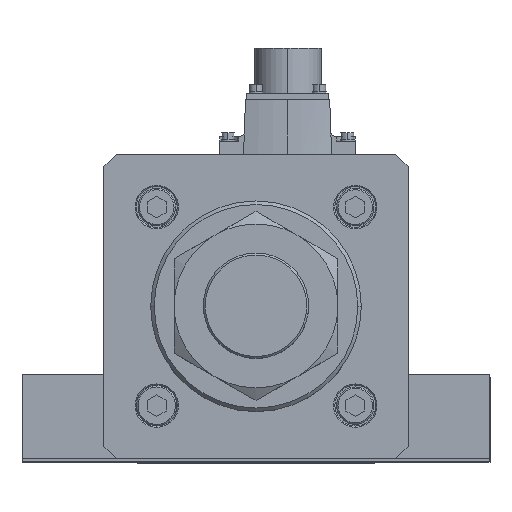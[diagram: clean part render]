
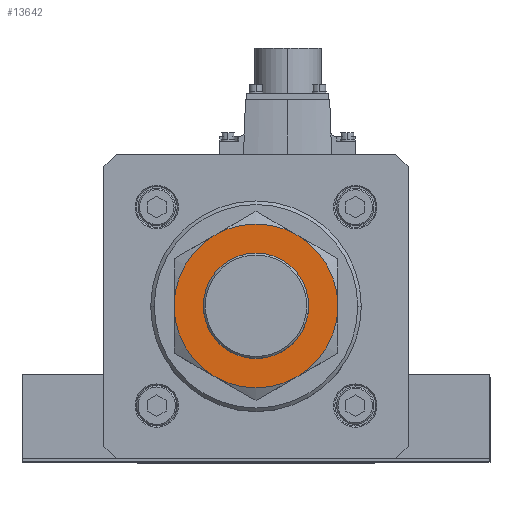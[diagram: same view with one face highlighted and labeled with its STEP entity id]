
A CAD part, top view. The second image highlights one B-rep face of the part: STEP entity #13642.
In plain terms, the highlighted planar face has unit normal (0, 0, 1).
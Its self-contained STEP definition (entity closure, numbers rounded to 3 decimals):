
#890 = DIRECTION ( 'NONE',  ( 1., 0., 0. ) ) ;
#1003 = DIRECTION ( 'NONE',  ( -1., 0., 0. ) ) ;
#1778 = CARTESIAN_POINT ( 'NONE',  ( 0., 0., 27. ) ) ;
#2931 = EDGE_CURVE ( 'NONE', #8934, #12375, #38059, .T. ) ;
#3226 = CARTESIAN_POINT ( 'NONE',  ( 35., 0., 27. ) ) ;
#3309 = DIRECTION ( 'NONE',  ( -1., 0., 0. ) ) ;
#3325 = CARTESIAN_POINT ( 'NONE',  ( 0., 0., 27. ) ) ;
#3900 = ORIENTED_EDGE ( 'NONE', *, *, #32333, .F. ) ;
#4911 = DIRECTION ( 'NONE',  ( 0., 0., -1. ) ) ;
#5414 = CARTESIAN_POINT ( 'NONE',  ( 22.5, 0., 27. ) ) ;
#5470 = EDGE_CURVE ( 'NONE', #12375, #8934, #25511, .T. ) ;
#6948 = VERTEX_POINT ( 'NONE', #9541 ) ;
#7017 = DIRECTION ( 'NONE',  ( -1., 0., 0. ) ) ;
#7307 = CARTESIAN_POINT ( 'NONE',  ( -22.5, 0., 27. ) ) ;
#8182 = CARTESIAN_POINT ( 'NONE',  ( 0., 0., 27. ) ) ;
#8934 = VERTEX_POINT ( 'NONE', #7307 ) ;
#9541 = CARTESIAN_POINT ( 'NONE',  ( -17.5, 30.311, 27. ) ) ;
#10474 = AXIS2_PLACEMENT_3D ( 'NONE', #8182, #34939, #28701 ) ;
#10934 = EDGE_CURVE ( 'NONE', #25248, #36316, #28099, .T. ) ;
#11334 = ORIENTED_EDGE ( 'NONE', *, *, #2931, .F. ) ;
#11921 = ORIENTED_EDGE ( 'NONE', *, *, #24471, .F. ) ;
#12375 = VERTEX_POINT ( 'NONE', #5414 ) ;
#12856 = ORIENTED_EDGE ( 'NONE', *, *, #18074, .F. ) ;
#12955 = DIRECTION ( 'NONE',  ( 0., 0., -1. ) ) ;
#13642 = ADVANCED_FACE ( 'NONE', ( #27444, #33933 ), #15734, .T. ) ;
#13752 = CARTESIAN_POINT ( 'NONE',  ( -17.5, -30.311, 27. ) ) ;
#14294 = VERTEX_POINT ( 'NONE', #19113 ) ;
#14567 = ORIENTED_EDGE ( 'NONE', *, *, #10934, .F. ) ;
#14980 = CARTESIAN_POINT ( 'NONE',  ( 17.5, -30.311, 27. ) ) ;
#15091 = CARTESIAN_POINT ( 'NONE',  ( 0., 0., 27. ) ) ;
#15579 = ORIENTED_EDGE ( 'NONE', *, *, #5470, .F. ) ;
#15589 = CARTESIAN_POINT ( 'NONE',  ( 0., 0., 27. ) ) ;
#15734 = PLANE ( 'NONE',  #29106 ) ;
#15790 = CIRCLE ( 'NONE', #18067, 35. ) ;
#15851 = VERTEX_POINT ( 'NONE', #17768 ) ;
#15945 = EDGE_CURVE ( 'NONE', #14294, #25248, #15790, .T. ) ;
#16029 = DIRECTION ( 'NONE',  ( 0., 0., 1. ) ) ;
#16561 = AXIS2_PLACEMENT_3D ( 'NONE', #33737, #16029, #36717 ) ;
#17765 = DIRECTION ( 'NONE',  ( 0., 0., -1. ) ) ;
#17768 = CARTESIAN_POINT ( 'NONE',  ( -35., 0., 27. ) ) ;
#18040 = VERTEX_POINT ( 'NONE', #13752 ) ;
#18067 = AXIS2_PLACEMENT_3D ( 'NONE', #15589, #27559, #21355 ) ;
#18074 = EDGE_CURVE ( 'NONE', #15851, #6948, #19445, .T. ) ;
#18673 = DIRECTION ( 'NONE',  ( 0., 0., -1. ) ) ;
#18866 = DIRECTION ( 'NONE',  ( 1., 0., 0. ) ) ;
#19113 = CARTESIAN_POINT ( 'NONE',  ( 17.5, 30.311, 27. ) ) ;
#19445 = CIRCLE ( 'NONE', #10474, 35. ) ;
#19514 = AXIS2_PLACEMENT_3D ( 'NONE', #1778, #4911, #25421 ) ;
#19518 = AXIS2_PLACEMENT_3D ( 'NONE', #15091, #17765, #3309 ) ;
#20760 = CIRCLE ( 'NONE', #19518, 35. ) ;
#20823 = AXIS2_PLACEMENT_3D ( 'NONE', #30749, #12955, #7017 ) ;
#21355 = DIRECTION ( 'NONE',  ( -1., 0., 0. ) ) ;
#21754 = DIRECTION ( 'NONE',  ( 0., 0., 1. ) ) ;
#22568 = ORIENTED_EDGE ( 'NONE', *, *, #15945, .F. ) ;
#24471 = EDGE_CURVE ( 'NONE', #6948, #14294, #32829, .T. ) ;
#25248 = VERTEX_POINT ( 'NONE', #3226 ) ;
#25340 = ORIENTED_EDGE ( 'NONE', *, *, #34194, .F. ) ;
#25421 = DIRECTION ( 'NONE',  ( -1., 0., 0. ) ) ;
#25511 = CIRCLE ( 'NONE', #16561, 22.5 ) ;
#27444 = FACE_OUTER_BOUND ( 'NONE', #33569, .T. ) ;
#27559 = DIRECTION ( 'NONE',  ( 0., 0., -1. ) ) ;
#27656 = DIRECTION ( 'NONE',  ( 0., 0., 1. ) ) ;
#28099 = CIRCLE ( 'NONE', #29356, 35. ) ;
#28625 = AXIS2_PLACEMENT_3D ( 'NONE', #36626, #27656, #18866 ) ;
#28701 = DIRECTION ( 'NONE',  ( -1., 0., 0. ) ) ;
#28954 = EDGE_LOOP ( 'NONE', ( #11334, #15579 ) ) ;
#29106 = AXIS2_PLACEMENT_3D ( 'NONE', #36430, #21754, #890 ) ;
#29356 = AXIS2_PLACEMENT_3D ( 'NONE', #3325, #18673, #1003 ) ;
#30749 = CARTESIAN_POINT ( 'NONE',  ( 0., 0., 27. ) ) ;
#32333 = EDGE_CURVE ( 'NONE', #18040, #15851, #20760, .T. ) ;
#32829 = CIRCLE ( 'NONE', #19514, 35. ) ;
#33107 = CIRCLE ( 'NONE', #20823, 35. ) ;
#33569 = EDGE_LOOP ( 'NONE', ( #14567, #22568, #11921, #12856, #3900, #25340 ) ) ;
#33737 = CARTESIAN_POINT ( 'NONE',  ( 0., 0., 27. ) ) ;
#33933 = FACE_BOUND ( 'NONE', #28954, .T. ) ;
#34194 = EDGE_CURVE ( 'NONE', #36316, #18040, #33107, .T. ) ;
#34939 = DIRECTION ( 'NONE',  ( 0., 0., -1. ) ) ;
#36316 = VERTEX_POINT ( 'NONE', #14980 ) ;
#36430 = CARTESIAN_POINT ( 'NONE',  ( 0., 0., 27. ) ) ;
#36626 = CARTESIAN_POINT ( 'NONE',  ( 0., 0., 27. ) ) ;
#36717 = DIRECTION ( 'NONE',  ( 1., 0., 0. ) ) ;
#38059 = CIRCLE ( 'NONE', #28625, 22.5 ) ;
